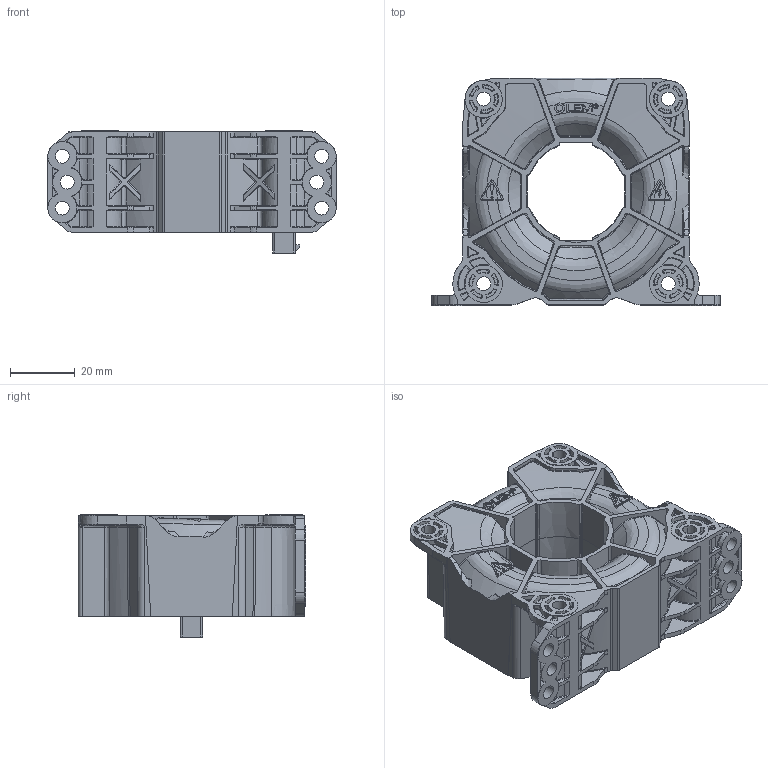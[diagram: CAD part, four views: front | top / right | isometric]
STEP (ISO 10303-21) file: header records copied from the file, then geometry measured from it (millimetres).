
FILE_DESCRIPTION(('Creo Elements/Direct Modeling STEP Export'),'2;1');
FILE_NAME('Blackbox_LF_510_H_.stp','2015-04-20T 9:07:34',(''),(''),'Creo Elements/Direct Modeling STEP processor for AP214 (Solid Model)','Creo Elements/Direct Modeling 17.0C 05-Feb-2011 (C) Parametric Technology GmbH','');
FILE_SCHEMA(('AUTOMOTIVE_DESIGN { 1 0 10303 214 1 1 1 1 }'));
Products named in the file (1): LF_510_OUTLINE_H
Bounding box: 89 x 70.3 x 37.7 mm (x, y, z)
Volume: 102255.3 mm3; surface area: 25950.8 mm2
Topology: 1 solids, 1 shells, 2104 faces, 5321 edges, 3276 vertices
Faces by surface type: bspline 1064, plane 578, cylinder 266, cone 104, torus 76, extrusion 9, sphere 7
Entity records: 142003 total; most frequent: CARTESIAN_POINT 102050, ORIENTED_EDGE 10624, EDGE_CURVE 5312, DIRECTION 4300, VERTEX_POINT 3276, B_SPLINE_CURVE_WITH_KNOTS 2506, EDGE_LOOP 2192, FACE_OUTER_BOUND 2104
